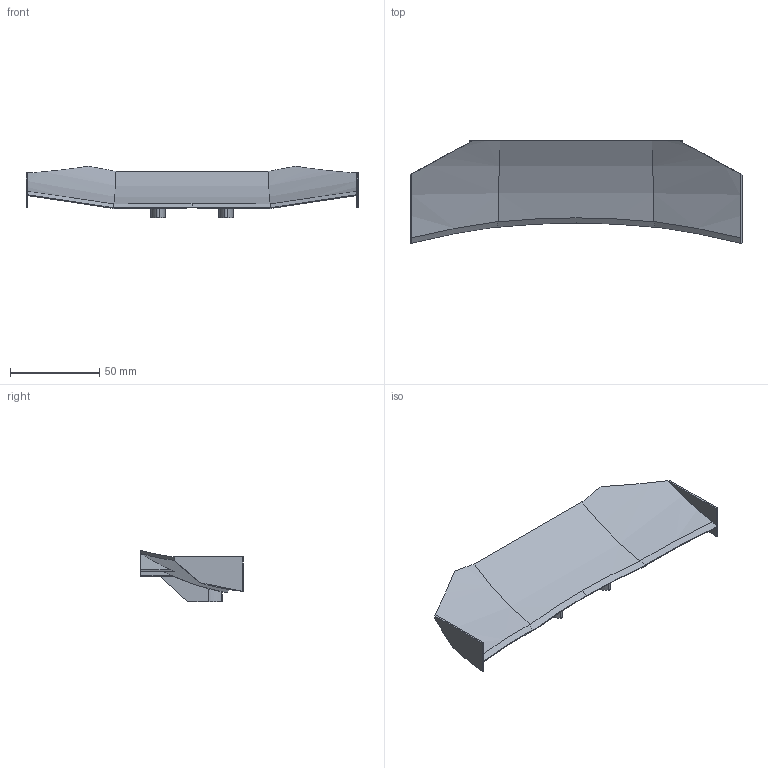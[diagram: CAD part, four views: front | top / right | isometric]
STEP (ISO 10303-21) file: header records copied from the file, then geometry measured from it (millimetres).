
FILE_DESCRIPTION(/* description */ (''),/* implementation_level */ '2;1');
FILE_NAME(/* name */ '1-12-1 Rear spoiler.step',/* time_stamp */ '2025-05-10T21:34:05+02:00',/* author */ (''),/* organization */ (''),/* preprocessor_version */ 'ST-DEVELOPER v20.1',/* originating_system */ 'Autodesk Translation Framework v14.4.0.0',/* authorisation */ '');
FILE_SCHEMA (('AUTOMOTIVE_DESIGN { 1 0 10303 214 3 1 1 }'));
Length unit declared in the file: millimetre
Products named in the file (1): 1-12-1 Rear spoiler
Bounding box: 186.2 x 57.34 x 28.92 mm (x, y, z)
Volume: 22346.9 mm3; surface area: 24262.5 mm2
Topology: 1 solids, 1 shells, 83 faces, 220 edges, 145 vertices
Faces by surface type: plane 47, cylinder 30, bspline 6
Full cylindrical faces by diameter (mm): 4.1 x4
Entity records: 3178 total; most frequent: CARTESIAN_POINT 1061, ORIENTED_EDGE 440, DIRECTION 436, EDGE_CURVE 220, AXIS2_PLACEMENT_3D 168, VERTEX_POINT 145, LINE 100, VECTOR 100
